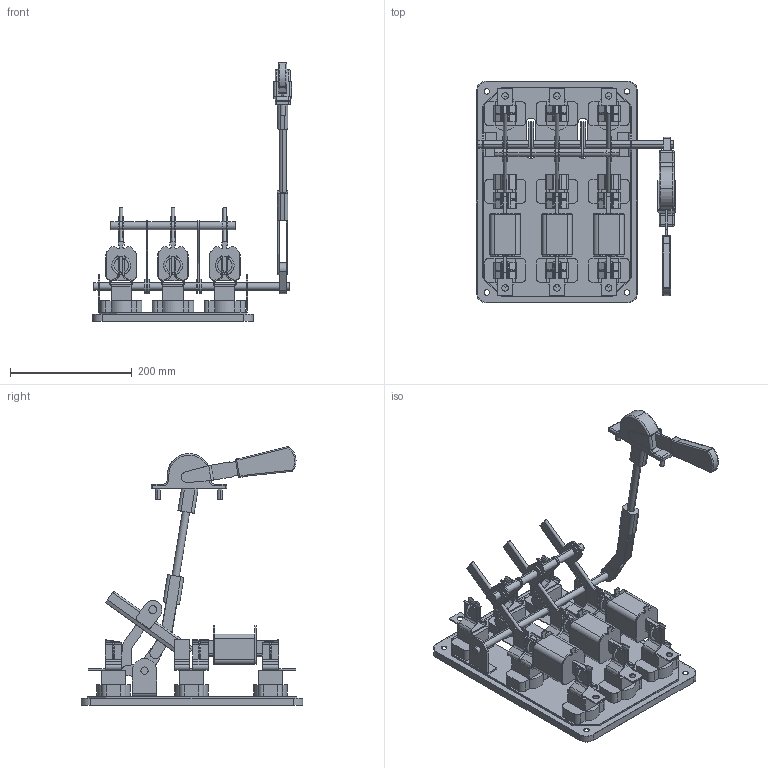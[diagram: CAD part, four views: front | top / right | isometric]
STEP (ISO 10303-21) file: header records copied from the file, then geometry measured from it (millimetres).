
FILE_DESCRIPTION (( 'STEP AP214' ), '1' );
FILE_NAME ('Ðàçúåäèíèòåëü ÐÏÑ-2Ï-250À-ÏÂ250À-ÓÕË3-ÊÝÀÇ.STEP', '2023-05-01T20:19:45', ( '' ), ( '' ), 'SwSTEP 2.0', 'SolidWorks 2018', '' );
FILE_SCHEMA (( 'AUTOMOTIVE_DESIGN' ));
Length unit declared in the file: millimetre
Products named in the file (1): Ðàçúåäèíèòåëü ÐÏÑ-2Ï-250À-ÏÂ250À-ÓÕË3-ÊÝÀÇ
Bounding box: 326.5 x 364 x 424.53 mm (x, y, z)
Volume: 2150101.5 mm3; surface area: 616947.2 mm2
Topology: 12 solids, 12 shells, 1362 faces, 3765 edges, 2443 vertices
Faces by surface type: plane 778, cylinder 486, torus 84, sphere 14
Entity records: 60691 total; most frequent: CARTESIAN_POINT 9923, ORIENTED_EDGE 7514, DIRECTION 7490, EDGE_CURVE 3757, AXIS2_PLACEMENT_3D 2526, VERTEX_POINT 2441, LINE 2438, VECTOR 2438
